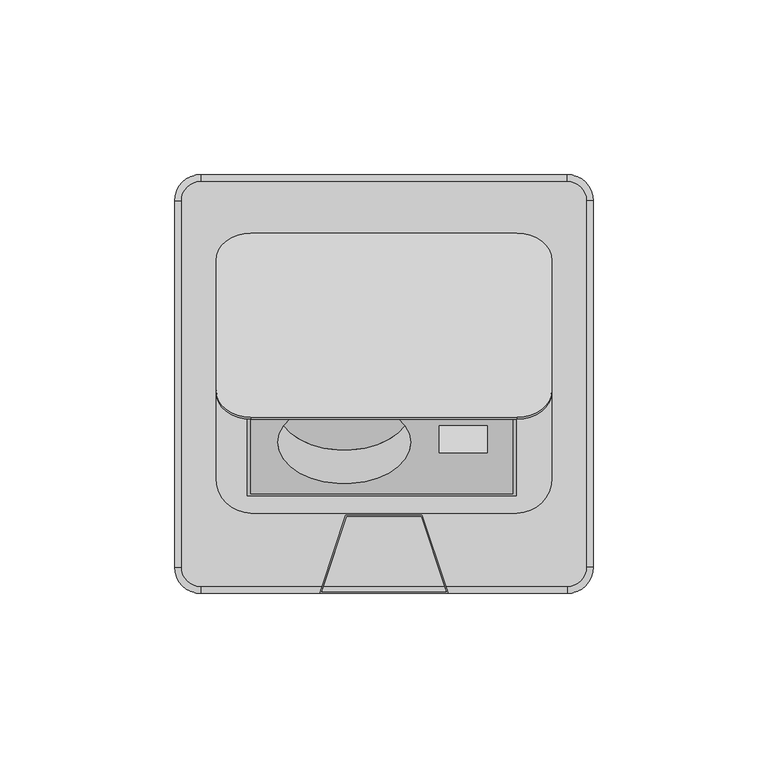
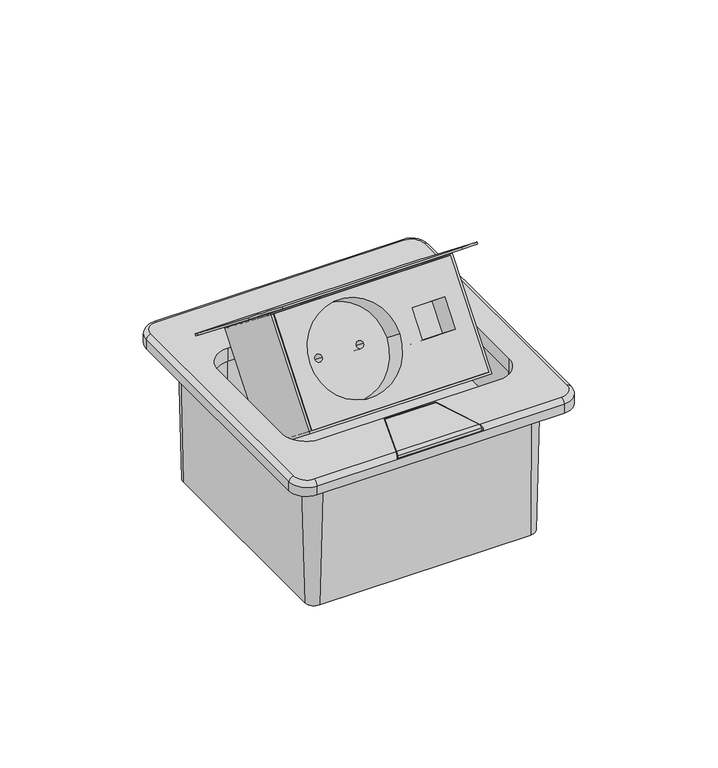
"""IFC4 building model written with IfcOpenShell, lengths in millimetres: proxy geometry, Electrical_Installation_Hager_VE-EE_Floor-socket-square : Floor socket square single a. RJ45 bronze."""

from ifc_helpers import new_model, si_unit, point, frame, frame_2d, origin, place, context, project, spatial, polyline, circle_curve, ellipse_curve, trimmed, segment, composite_curve, outline, extrude, source, transform, mapped, element, save
from ifc_brep_helpers import plane_surface, cylinder_surface, revolved_surface, spline_surface, advanced_brep


def electrical_fixtures_db793506(model_context):
    return source(origin(), model_context, "Body", "SolidModel", [
        advanced_brep(
        [(-52.5, 58.0283196, 5.9674888), (-57.9994443, 52.5288753, 5.9674888), (-57.9994443, -52.4711201, 5.9674888), (-52.5, -57.9705644, 5.9674888), (-17.8382514, -57.9705644, 5.9674888), (-11.0326968, -37.4705652, 5.9674888), (11.0, -37.4705652, 5.9674888), (17.8333333, -57.9705644, 5.9674888), (52.5, -57.9705644, 5.9674888), (57.9994443, -52.4711201, 5.9674888), (57.9994443, 52.5288753, 5.9674888), (52.5, 58.0283196, 5.9674888), (-48.1, 20.5125, 5.9674888), (-38.1, 30.5125, 5.9674888), (38.1, 30.5125, 5.9674888), (48.1, 20.5125, 5.9674888), (48.1, -26.95, 5.9674888), (38.1, -36.95, 5.9674888), (-38.1, -36.95, 5.9674888), (-48.1, -26.95, 5.9674888), (-17.311419, -57.9705644, 5.9674888), (17.3062871, -57.9705644, 5.9674888), (10.6396204, -37.9705652, 5.9674888), (-10.6718535, -37.9705652, 5.9674888), (-60.0, -52.4711201, 0.0), (-60.0, 52.5288753, 0.0), (-52.5, 60.0288753, 0.0), (52.5, 60.0288753, 0.0), (60.0, 52.5288753, 0.0), (60.0, -52.4711201, 0.0), (52.5, -59.9711201, 0.0), (-52.5, -59.9711201, 0.0), (-48.1, 20.5125, 0.0), (-48.1, -26.95, 0.0), (-38.1, -36.95, 0.0), (38.1, -36.95, 0.0), (48.1, -26.95, 0.0), (48.1, 20.5125, 0.0), (38.1, 30.5125, 0.0), (-38.1, 30.5125, 0.0), (-52.5, -59.9711201, 3.9669345), (-60.0, -52.4711201, 3.9669331), (52.5, -59.9711201, 3.9669331), (18.5001852, -59.9711201, 3.9669331), (-18.5023925, -59.9711201, 3.9842473), (60.0, -52.4711201, 3.9669345), (60.0, 52.5288753, 3.9669331), (52.5, 60.0288753, 3.9669345), (-52.5, 60.0288753, 3.9669345), (-60.0, 52.5288753, 3.9669345), (-17.8316076, -59.5375, 5.2106919), (17.8285989, -59.5375, 5.2106919), (11.0, -37.4705652, 3.9842473), (-11.0326968, -37.4705652, 3.9842473), (-17.8316076, -59.5375, 3.9842473), (-10.6718535, -37.9705652, 3.9842473), (10.6396204, -37.9705652, 3.9842473), (17.8285989, -59.5375, 3.9842473)],
        [
            (0, 1, circle_curve(frame((-52.5, 52.5288753, 5.9674888), z_axis=(0.0, 0.0, 1.0), x_axis=(0.0, 1.0, 0.0)), 5.4994443)),
            (1, 2),
            (2, 3, circle_curve(frame((-52.5, -52.4711201, 5.9674888), z_axis=(0.0, 0.0, 1.0), x_axis=(-1.0, 0.0, 0.0)), 5.4994443)),
            (3, 4),
            (4, 5),
            (5, 6),
            (6, 7),
            (7, 8),
            (8, 9, circle_curve(frame((52.5, -52.4711201, 5.9674888), z_axis=(0.0, 0.0, 1.0), x_axis=(0.0, -1.0, 0.0)), 5.4994443)),
            (9, 10),
            (10, 11, circle_curve(frame((52.5, 52.5288753, 5.9674888), z_axis=(0.0, 0.0, 1.0), x_axis=(1.0, 0.0, 0.0)), 5.4994443)),
            (11, 0),
            (12, 13, circle_curve(frame((-38.1, 20.5125, 5.9674888), z_axis=(0.0, 0.0, -1.0), x_axis=(1.0, 0.0, 0.0)), 10.0)),
            (13, 14),
            (14, 15, circle_curve(frame((38.1, 20.5125, 5.9674888), z_axis=(0.0, 0.0, -1.0), x_axis=(1.0, 0.0, 0.0)), 10.0)),
            (15, 16),
            (16, 17, circle_curve(frame((38.1, -26.95, 5.9674888), z_axis=(0.0, 0.0, -1.0), x_axis=(1.0, 0.0, 0.0)), 10.0)),
            (17, 18),
            (18, 19, circle_curve(frame((-38.1, -26.95, 5.9674888), z_axis=(0.0, 0.0, -1.0), x_axis=(1.0, 0.0, 0.0)), 10.0)),
            (19, 12),
            (20, 21),
            (21, 22),
            (22, 23),
            (23, 20),
            (24, 25),
            (25, 26, circle_curve(frame((-52.5, 52.5288753, 0.0), z_axis=(0.0, 0.0, -1.0), x_axis=(1.0, 0.0, 0.0)), 7.5)),
            (26, 27),
            (27, 28, circle_curve(frame((52.5, 52.5288753, 0.0), z_axis=(0.0, 0.0, -1.0), x_axis=(1.0, 0.0, 0.0)), 7.5)),
            (28, 29),
            (29, 30, circle_curve(frame((52.5, -52.4711201, 0.0), z_axis=(0.0, 0.0, -1.0), x_axis=(1.0, 0.0, 0.0)), 7.5)),
            (30, 31),
            (31, 24, circle_curve(frame((-52.5, -52.4711201, 0.0), z_axis=(0.0, 0.0, -1.0), x_axis=(1.0, 0.0, 0.0)), 7.5)),
            (32, 33),
            (33, 34, circle_curve(frame((-38.1, -26.95, 0.0), z_axis=(0.0, 0.0, 1.0), x_axis=(1.0, 0.0, 0.0)), 10.0)),
            (34, 35),
            (35, 36, circle_curve(frame((38.1, -26.95, 0.0), z_axis=(0.0, 0.0, 1.0), x_axis=(1.0, 0.0, 0.0)), 10.0)),
            (36, 37),
            (37, 38, circle_curve(frame((38.1, 20.5125, 0.0), z_axis=(0.0, 0.0, 1.0), x_axis=(1.0, 0.0, 0.0)), 10.0)),
            (38, 39),
            (39, 32, circle_curve(frame((-38.1, 20.5125, 0.0), z_axis=(0.0, 0.0, 1.0), x_axis=(1.0, 0.0, 0.0)), 10.0)),
            (12, 32),
            (39, 13),
            (38, 14),
            (37, 15),
            (36, 16),
            (35, 17),
            (34, 18),
            (33, 19),
            (31, 40),
            (40, 41, circle_curve(frame((-52.5, -52.4711201, 3.9669331), z_axis=(0.0, 0.0, -1.0), x_axis=(1.0, 0.0, 0.0)), 7.5)),
            (41, 24),
            (30, 42),
            (42, 43),
            (43, 44),
            (44, 40),
            (29, 45),
            (45, 42, circle_curve(frame((52.5, -52.4711201, 3.9669331), z_axis=(0.0, 0.0, -1.0), x_axis=(1.0, 0.0, 0.0)), 7.5)),
            (28, 46),
            (46, 45),
            (27, 47),
            (47, 46, circle_curve(frame((52.5, 52.5288753, 3.9669331), z_axis=(0.0, 0.0, -1.0), x_axis=(1.0, 0.0, 0.0)), 7.5)),
            (26, 48),
            (48, 47),
            (25, 49),
            (49, 48, circle_curve(frame((-52.5, 52.5288753, 3.9669331), z_axis=(0.0, 0.0, -1.0), x_axis=(1.0, 0.0, 0.0)), 7.5)),
            (41, 49),
            (49, 1, circle_curve(frame((-57.9994443, 52.5288753, 3.9669331), z_axis=(0.0, 1.0, 0.0), x_axis=(1.0, 0.0, 0.0)), 2.0005557)),
            (0, 48, circle_curve(frame((-52.5, 58.0283196, 3.9669331), z_axis=(-1.0, 0.0, 0.0), x_axis=(0.0, -1.0, 0.0)), 2.0005557)),
            (41, 2, circle_curve(frame((-57.9994443, -52.4711201, 3.9669331), z_axis=(0.0, 1.0, 0.0), x_axis=(1.0, 0.0, 0.0)), 2.0005557)),
            (40, 3, circle_curve(frame((-52.5, -57.9705644, 3.9669331), z_axis=(-1.0, 0.0, 0.0), x_axis=(0.0, 1.0, 0.0)), 2.0005557)),
            (20, 50, ellipse_curve(frame((-17.311419, -57.9705644, 3.9669331), z_axis=(0.9490684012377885, -0.31507010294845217, 0.0), x_axis=(0.315070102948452, 0.9490684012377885, 0.0)), 2.1079152, 2.0005557)),
            (50, 51),
            (51, 21, ellipse_curve(frame((17.3062871, -57.9705644, 3.9669331), z_axis=(-0.9486832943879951, -0.31622777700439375, 0.0), x_axis=(0.3162277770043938, -0.9486832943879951, 0.0)), 2.1087708, 2.0005557)),
            (44, 4, ellipse_curve(frame((-17.8382514, -57.9705644, 3.9669331), z_axis=(-0.9490684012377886, 0.31507010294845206, 0.0), x_axis=(0.31507010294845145, 0.9490684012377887, 0.0)), 2.1079152, 2.0005557)),
            (42, 8, circle_curve(frame((52.5, -57.9705644, 3.9669331), z_axis=(-1.0, 0.0, 0.0), x_axis=(0.0, 1.0, 0.0)), 2.0005557)),
            (7, 43, ellipse_curve(frame((17.8333333, -57.9705644, 3.9669331), z_axis=(0.9486832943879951, 0.31622777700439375, 0.0), x_axis=(0.3162277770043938, -0.9486832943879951, 0.0)), 2.1087708, 2.0005557)),
            (45, 9, circle_curve(frame((57.9994443, -52.4711201, 3.9669331), z_axis=(0.0, -1.0, 0.0), x_axis=(-1.0, 0.0, 0.0)), 2.0005557)),
            (46, 10, circle_curve(frame((57.9994443, 52.5288753, 3.9669331), z_axis=(0.0, -1.0, 0.0), x_axis=(-1.0, 0.0, 0.0)), 2.0005557)),
            (47, 11, circle_curve(frame((52.5, 58.0283196, 3.9669331), z_axis=(1.0, 0.0, 0.0), x_axis=(0.0, -1.0, 0.0)), 2.0005557)),
            (43, 52),
            (52, 53),
            (53, 44),
            (54, 55),
            (55, 56),
            (56, 57),
            (57, 54),
            (6, 52),
            (5, 53),
            (54, 50),
            (23, 55),
            (22, 56),
            (51, 57),
        ],
        [
            plane_surface(frame((-28.1, 20.5125, 5.9674888), z_axis=(0.0, 0.0, 1.0), x_axis=(0.0, -1.0, 0.0))),
            plane_surface(frame((-28.1, 20.5125, 0.0), z_axis=(0.0, 0.0, -1.0), x_axis=(0.0, 1.0, 0.0))),
            revolved_surface(polyline([(-28.1, 20.5125, 0.0), (-28.1, 20.5125, 5.9674888)]), (-38.1, 20.5125, 0.0), (0.0, 0.0, -1.0)),
            plane_surface(frame((-38.1, 30.5125, 5.9674888), z_axis=(0.0, -1.0, 0.0), x_axis=(0.0, 0.0, -1.0))),
            revolved_surface(polyline([(48.1, 20.5125, 0.0), (48.1, 20.5125, 5.9674888)]), (38.1, 20.5125, 0.0), (0.0, 0.0, -1.0)),
            plane_surface(frame((48.1, 20.5125, 5.9674888), z_axis=(-1.0, 0.0, 0.0), x_axis=(0.0, 0.0, -1.0))),
            revolved_surface(polyline([(48.1, -26.95, 0.0), (48.1, -26.95, 5.9674888)]), (38.1, -26.95, 0.0), (0.0, 0.0, -1.0)),
            plane_surface(frame((38.1, -36.95, 5.9674888), z_axis=(0.0, 1.0, 0.0), x_axis=(0.0, 0.0, -1.0))),
            revolved_surface(polyline([(-28.1, -26.95, 0.0), (-28.1, -26.95, 5.9674888)]), (-38.1, -26.95, 0.0), (0.0, 0.0, -1.0)),
            plane_surface(frame((-48.1, -26.95, 5.9674888), z_axis=(1.0, 0.0, 0.0), x_axis=(0.0, 0.0, -1.0))),
            cylinder_surface(frame((-52.5, -52.4711201, 0.0), z_axis=(0.0, 0.0, 1.0), x_axis=(1.0, 0.0, 0.0)), 7.5),
            plane_surface(frame((-52.5, -59.9711201, 5.9674888), z_axis=(0.0, -1.0, 0.0), x_axis=(0.0, 0.0, -1.0))),
            cylinder_surface(frame((52.5, -52.4711201, 0.0), z_axis=(0.0, 0.0, 1.0), x_axis=(1.0, 0.0, 0.0)), 7.5),
            plane_surface(frame((60.0, -52.4711201, 5.9674888), z_axis=(1.0, 0.0, 0.0), x_axis=(0.0, 0.0, -1.0))),
            cylinder_surface(frame((52.5, 52.5288753, 0.0), z_axis=(0.0, 0.0, 1.0), x_axis=(1.0, 0.0, 0.0)), 7.5),
            plane_surface(frame((52.5, 60.0288753, 5.9674888), z_axis=(0.0, 1.0, 0.0), x_axis=(0.0, 0.0, -1.0))),
            cylinder_surface(frame((-52.5, 52.5288753, 0.0), z_axis=(0.0, 0.0, 1.0), x_axis=(1.0, 0.0, 0.0)), 7.5),
            plane_surface(frame((-60.0, 52.5288753, 5.9674888), z_axis=(-1.0, 0.0, 0.0), x_axis=(0.0, 0.0, -1.0))),
            revolved_surface(trimmed(ellipse_curve(frame((-52.5, 58.0283196, 3.9669331), z_axis=(1.0, 0.0, 0.0), x_axis=(0.0, -1.0, 0.0)), 2.0005557, 2.0005557), [point((-52.5, 60.0288753, 3.9669331))], [point((-52.5, 58.0283196, 5.9674888))], True, "CARTESIAN"), (-52.5, 52.5288753, 0.0), (0.0, 0.0, 1.0)),
            cylinder_surface(frame((-57.9994443, 52.5288753, 3.9669331), z_axis=(0.0, -1.0, 0.0), x_axis=(1.0, 0.0, 0.0)), 2.0005557),
            revolved_surface(trimmed(ellipse_curve(frame((-57.9994443, -52.4711201, 3.9669331), z_axis=(0.0, 1.0, 0.0), x_axis=(1.0, 0.0, 0.0)), 2.0005557, 2.0005557), [point((-60.0, -52.4711201, 3.9669331))], [point((-57.9994443, -52.4711201, 5.9674888))], True, "CARTESIAN"), (-52.5, -52.4711201, 0.0), (0.0, 0.0, 1.0)),
            cylinder_surface(frame((-52.5, -57.9705644, 3.9669331), z_axis=(1.0, 0.0, 0.0), x_axis=(0.0, 1.0, 0.0)), 2.0005557),
            revolved_surface(trimmed(ellipse_curve(frame((52.5, -57.9705644, 3.9669331), z_axis=(-1.0, 0.0, 0.0), x_axis=(0.0, 1.0, 0.0)), 2.0005557, 2.0005557), [point((52.5, -59.9711201, 3.9669331))], [point((52.5, -57.9705644, 5.9674888))], True, "CARTESIAN"), (52.5, -52.4711201, 0.0), (0.0, 0.0, 1.0)),
            cylinder_surface(frame((57.9994443, -52.4711201, 3.9669331), z_axis=(0.0, 1.0, 0.0), x_axis=(-1.0, 0.0, 0.0)), 2.0005557),
            revolved_surface(trimmed(ellipse_curve(frame((57.9994443, 52.5288753, 3.9669331), z_axis=(0.0, -1.0, 0.0), x_axis=(-1.0, 0.0, 0.0)), 2.0005557, 2.0005557), [point((60.0, 52.5288753, 3.9669331))], [point((57.9994443, 52.5288753, 5.9674888))], True, "CARTESIAN"), (52.5, 52.5288753, 0.0), (0.0, 0.0, 1.0)),
            cylinder_surface(frame((52.5, 58.0283196, 3.9669331), z_axis=(-1.0, 0.0, 0.0), x_axis=(0.0, -1.0, 0.0)), 2.0005557),
            plane_surface(frame((10.35, -59.9711201, 3.9842473), z_axis=(0.0, 0.0, 1.0), x_axis=(-1.0, 0.0, 0.0))),
            plane_surface(frame((18.5001852, -59.9711201, 8.0), z_axis=(-0.9486832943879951, -0.31622777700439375, 0.0), x_axis=(0.0, 0.0, -1.0))),
            plane_surface(frame((11.0, -37.4705652, 8.0), z_axis=(0.0, -1.0, 0.0), x_axis=(0.0, 0.0, -1.0))),
            plane_surface(frame((-11.0326968, -37.4705652, 8.0), z_axis=(0.9490684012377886, -0.31507010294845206, 0.0), x_axis=(0.0, 0.0, -1.0))),
            plane_surface(frame((-17.8316076, -59.5375, 8.0), z_axis=(-0.9490684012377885, 0.31507010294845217, 0.0), x_axis=(0.0, 0.0, -1.0))),
            plane_surface(frame((-10.6718535, -37.9705652, 8.0), z_axis=(0.0, 1.0, 0.0), x_axis=(0.0, 0.0, -1.0))),
            plane_surface(frame((10.6396204, -37.9705652, 8.0), z_axis=(0.9486832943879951, 0.31622777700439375, 0.0), x_axis=(0.0, 0.0, -1.0))),
            plane_surface(frame((17.8285989, -59.5375, 8.0), z_axis=(0.0, -1.0, 0.0), x_axis=(0.0, 0.0, -1.0))),
        ],
        [
            (0, [[1, 2, 3, 4, 5, 6, 7, 8, 9, 10, 11, 12], [13, 14, 15, 16, 17, 18, 19, 20]]),
            (0, [[21, 22, 23, 24]]),
            (1, [[25, 26, 27, 28, 29, 30, 31, 32], [33, 34, 35, 36, 37, 38, 39, 40]]),
            (2, [[-13, 41, -40, 42]]),
            (3, [[-14, -42, -39, 43]]),
            (4, [[-15, -43, -38, 44]]),
            (5, [[-16, -44, -37, 45]]),
            (6, [[-17, -45, -36, 46]]),
            (7, [[-18, -46, -35, 47]]),
            (8, [[-19, -47, -34, 48]]),
            (9, [[-20, -48, -33, -41]]),
            (10, [[-32, 49, 50, 51]]),
            (11, [[-31, 52, 53, 54, 55, -49]]),
            (12, [[-30, 56, 57, -52]]),
            (13, [[-29, 58, 59, -56]]),
            (14, [[-28, 60, 61, -58]]),
            (15, [[-27, 62, 63, -60]]),
            (16, [[-26, 64, 65, -62]]),
            (17, [[-25, -51, 66, -64]]),
            (18, [[67, -1, 68, -65]]),
            (19, [[-67, -66, 69, -2]]),
            (20, [[-69, -50, 70, -3]]),
            (21, [[-21, 71, 72, 73]]),
            (21, [[-70, -55, 74, -4]]),
            (21, [[75, -8, 76, -53]]),
            (22, [[-75, -57, 77, -9]]),
            (23, [[-77, -59, 78, -10]]),
            (24, [[-78, -61, 79, -11]]),
            (25, [[-68, -12, -79, -63]]),
            (26, [[80, 81, 82, -54], [83, 84, 85, 86]]),
            (27, [[-80, -76, -7, 87]]),
            (28, [[-81, -87, -6, 88]]),
            (29, [[-82, -88, -5, -74]]),
            (30, [[-83, 89, -71, -24, 90]]),
            (31, [[-84, -90, -23, 91]]),
            (32, [[-85, -91, -22, -73, 92]]),
            (33, [[-86, -92, -72, -89]]),
        ],
    ),
        advanced_brep(
        [(36.9, -3.2305437, 41.9658911), (36.9, 30.7684246, 14.9606229), (-38.1, 30.7684246, 14.9606229), (-38.1, -3.2305437, 41.9658911), (36.9, -31.3883088, 6.5159575), (-38.1, -31.3883088, 6.5159575), (-38.1, 2.6106594, -20.4893107), (36.9, 2.6106594, -20.4893107), (-30.3664952, -16.7053992, 25.0013795), (7.6335048, -16.7053992, 25.0013795), (15.77713, -11.9412037, 30.9993845), (29.52713, -11.9412037, 30.9993845), (29.52713, -19.7384425, 21.1828526), (15.77713, -19.7384425, 21.1828526), (7.6335048, -7.0877896, 17.3621439), (-30.3664952, -7.0877896, 17.3621439), (-22.4382418, -6.6109294, 17.9624992), (-19.4382418, -6.6109294, 17.9624992), (-4.9382418, -6.6109294, 17.9624992), (-1.9382418, -6.6109294, 17.9624992), (29.52713, -2.323594, 23.3601489), (15.77713, -2.323594, 23.3601489), (15.77713, -10.1208329, 13.543617), (29.52713, -10.1208329, 13.543617), (-19.4382418, 9.1049917, 5.479395), (-22.4382418, 9.1049917, 5.479395), (-1.9382418, 9.1049917, 5.479395), (-4.9382418, 9.1049917, 5.479395)],
        [
            (0, 1),
            (1, 2),
            (2, 3),
            (3, 0),
            (4, 5),
            (5, 6),
            (6, 7),
            (7, 4),
            (0, 4),
            (7, 1),
            (6, 2),
            (5, 3),
            (8, 9, circle_curve(frame((-11.3664952, -16.7053992, 25.0013795), z_axis=(0.0, 0.7830425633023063, -0.6219681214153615), x_axis=(-1.0, 0.0, 0.0)), 19.0)),
            (9, 8, circle_curve(frame((-11.3664952, -16.7053992, 25.0013795), z_axis=(0.0, 0.7830425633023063, -0.6219681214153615), x_axis=(-1.0, 0.0, 0.0)), 19.0)),
            (10, 11),
            (11, 12),
            (12, 13),
            (13, 10),
            (14, 15, circle_curve(frame((-11.3664952, -7.0877896, 17.3621439), z_axis=(0.0, -0.7830425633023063, 0.6219681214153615), x_axis=(-1.0, 0.0, 0.0)), 19.0)),
            (15, 14, circle_curve(frame((-11.3664952, -7.0877896, 17.3621439), z_axis=(0.0, -0.7830425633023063, 0.6219681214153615), x_axis=(-1.0, 0.0, 0.0)), 19.0)),
            (16, 17, circle_curve(frame((-20.9382418, -6.6109294, 17.9624992), z_axis=(0.0, 0.7830425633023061, -0.6219681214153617), x_axis=(-1.0, 0.0, 0.0)), 1.5)),
            (17, 16, circle_curve(frame((-20.9382418, -6.6109294, 17.9624992), z_axis=(0.0, 0.7830425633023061, -0.6219681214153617), x_axis=(-1.0, 0.0, 0.0)), 1.5)),
            (18, 19, circle_curve(frame((-3.4382418, -6.6109294, 17.9624992), z_axis=(0.0, 0.7830425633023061, -0.6219681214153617), x_axis=(-1.0, 0.0, 0.0)), 1.5)),
            (19, 18, circle_curve(frame((-3.4382418, -6.6109294, 17.9624992), z_axis=(0.0, 0.7830425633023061, -0.6219681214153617), x_axis=(-1.0, 0.0, 0.0)), 1.5)),
            (20, 21),
            (21, 22),
            (22, 23),
            (23, 20),
            (14, 9),
            (8, 15),
            (20, 11),
            (10, 21),
            (13, 22),
            (12, 23),
            (24, 25, circle_curve(frame((-20.9382418, 9.1049917, 5.479395), z_axis=(0.0, -0.7830425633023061, 0.6219681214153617), x_axis=(-1.0, 0.0, 0.0)), 1.5)),
            (25, 24, circle_curve(frame((-20.9382418, 9.1049917, 5.479395), z_axis=(0.0, -0.7830425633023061, 0.6219681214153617), x_axis=(-1.0, 0.0, 0.0)), 1.5)),
            (26, 27, circle_curve(frame((-3.4382418, 9.1049917, 5.479395), z_axis=(0.0, -0.7830425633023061, 0.6219681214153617), x_axis=(-1.0, 0.0, 0.0)), 1.5)),
            (27, 26, circle_curve(frame((-3.4382418, 9.1049917, 5.479395), z_axis=(0.0, -0.7830425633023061, 0.6219681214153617), x_axis=(-1.0, 0.0, 0.0)), 1.5)),
            (24, 17),
            (16, 25),
            (26, 19),
            (18, 27),
        ],
        [
            plane_surface(frame((36.9, 30.7684246, 14.9606229), z_axis=(0.0, 0.6219681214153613, 0.7830425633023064), x_axis=(0.0, 0.7830425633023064, -0.6219681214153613))),
            plane_surface(frame((36.9, 2.6106594, -20.4893107), z_axis=(0.0, -0.6219681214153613, -0.7830425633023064), x_axis=(0.0, -0.7830425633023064, 0.6219681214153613))),
            plane_surface(frame((36.9, -3.2305437, 41.9658911), z_axis=(1.0000000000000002, 0.0, 0.0), x_axis=(0.0, -0.6219681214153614, -0.7830425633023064))),
            plane_surface(frame((36.9, 30.7684246, 14.9606229), z_axis=(0.0, 0.7830425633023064, -0.6219681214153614), x_axis=(0.0, -0.6219681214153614, -0.7830425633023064))),
            plane_surface(frame((-38.1, 30.7684246, 14.9606229), z_axis=(-1.0, 0.0, 0.0), x_axis=(0.0, -0.6219681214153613, -0.7830425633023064))),
            plane_surface(frame((-38.1, -3.2305437, 41.9658911), z_axis=(0.0, -0.7830425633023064, 0.6219681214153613), x_axis=(0.0, -0.6219681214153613, -0.7830425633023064))),
            plane_surface(frame((-30.3664952, -7.0877896, 17.3621439), z_axis=(0.0, -0.7830425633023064, 0.6219681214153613), x_axis=(0.0, 0.6219681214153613, 0.7830425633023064))),
            revolved_surface(polyline([(-30.3664952, -16.70539923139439, 25.001379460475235), (-30.3664952, -7.0877896, 17.3621439)]), (-11.3664952, -7.0877896, 17.3621439), (0.0, -0.7830425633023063, 0.6219681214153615)),
            plane_surface(frame((29.52713, -11.9412037, 30.9993845), z_axis=(0.0, -0.6219681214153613, -0.7830425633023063), x_axis=(0.0, 0.7830425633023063, -0.6219681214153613))),
            plane_surface(frame((15.77713, -11.9412037, 30.9993845), z_axis=(1.0, 0.0, 0.0), x_axis=(0.0, 0.7830425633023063, -0.6219681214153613))),
            plane_surface(frame((15.77713, -19.7384425, 21.1828526), z_axis=(0.0, 0.6219681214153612, 0.7830425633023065), x_axis=(0.0, 0.7830425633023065, -0.6219681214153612))),
            plane_surface(frame((29.52713, -19.7384425, 21.1828526), z_axis=(-1.0, 0.0, 0.0), x_axis=(0.0, 0.7830425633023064, -0.6219681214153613))),
            plane_surface(frame((-22.4382418, 9.1049917, 5.479395), z_axis=(0.0, -0.7830425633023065, 0.6219681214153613), x_axis=(0.0, 0.6219681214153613, 0.7830425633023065))),
            revolved_surface(polyline([(-22.4382418, -6.610929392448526, 17.96249920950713), (-22.4382418, 9.1049917, 5.479395)]), (-20.9382418, 9.1049917, 5.479395), (0.0, -0.7830425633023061, 0.6219681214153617)),
            revolved_surface(polyline([(-4.9382418, -6.610929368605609, 17.96249923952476), (-4.9382418, 9.104991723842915, 5.479395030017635)]), (-3.4382418, -16.228539, 25.6017348), (0.0, -0.7830425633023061, 0.6219681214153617)),
        ],
        [
            (0, [[1, 2, 3, 4]]),
            (1, [[5, 6, 7, 8]]),
            (2, [[-1, 9, -8, 10]]),
            (3, [[-2, -10, -7, 11]]),
            (4, [[-3, -11, -6, 12]]),
            (5, [[-4, -12, -5, -9], [13, 14], [15, 16, 17, 18]]),
            (6, [[19, 20], [21, 22], [23, 24]]),
            (6, [[25, 26, 27, 28]]),
            (7, [[-19, 29, -13, 30]]),
            (7, [[-20, -30, -14, -29]]),
            (8, [[-25, 31, -15, 32]]),
            (9, [[-26, -32, -18, 33]]),
            (10, [[-27, -33, -17, 34]]),
            (11, [[-28, -34, -16, -31]]),
            (12, [[35, 36]]),
            (12, [[37, 38]]),
            (13, [[-35, 39, -21, 40]]),
            (13, [[-36, -40, -22, -39]]),
            (14, [[-37, 41, -23, 42]]),
            (14, [[-38, -42, -24, -41]]),
        ],
    ),
        extrude(outline(polyline([(46.2720392, -1.0), (-0.3640967, -1.0), (-0.3640967, 76.0), (46.2720392, 76.0), (46.2720392, -1.0)]), holes=[polyline([(45.2720392, 0.0), (45.2720392, 75.0), (0.0, 75.0), (0.0, 0.0), (45.2720392, 0.0)])]), frame((-38.1, 30.7684246, 14.9606229), z_axis=(0.0, -0.7830425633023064, 0.6219681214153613), x_axis=(0.0, -0.6219681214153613, -0.7830425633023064)), (0.0, 0.0, 1.0), 43.4190552),
        extrude(outline(composite_curve([segment(polyline([(0.0, -20.0), (-76.2, -20.0)]), True, "CONTINUOUS"), segment(trimmed(circle_curve(frame_2d((-76.2, -10.0)), 10.0), [point((-76.2, -20.0))], [point((-86.2, -10.0))], False, "CARTESIAN"), True, "CONTINUOUS"), segment(polyline([(-86.2, -10.0), (-86.2, 37.4624999)]), True, "CONTINUOUS"), segment(trimmed(circle_curve(frame_2d((-76.2, 37.4624999)), 10.0), [point((-86.2, 37.4624999))], [point((-76.2, 47.4625))], False, "CARTESIAN"), True, "CONTINUOUS"), segment(polyline([(-76.2, 47.4625), (0.0, 47.4625)]), True, "CONTINUOUS"), segment(trimmed(circle_curve(frame_2d((0.0, 37.4624999)), 10.0), [point((0.0, 47.4625))], [point((10.0, 37.4624999))], False, "CARTESIAN"), True, "CONTINUOUS"), segment(polyline([(10.0, 37.4624999), (10.0, -10.0)]), True, "CONTINUOUS"), segment(trimmed(circle_curve(frame_2d((0.0, -10.0)), 10.0), [point((10.0, -10.0))], [point((0.0, -20.0))], False, "CARTESIAN"), True, "CONTINUOUS")], self_intersect=False)), frame((-38.1, 27.1120695, 18.8433586), z_axis=(0.0, 0.6219681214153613, 0.7830425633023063), x_axis=(-1.0, 0.0, 0.0)), (0.0, 0.0, 1.0), 0.7674888),
        advanced_brep(
        [(44.25, 50.25, 0.0), (-44.2266887, 50.25, 0.0), (-50.2266887, 44.25, 0.0), (-50.2266887, -44.25, 0.0), (-44.2266887, -50.25, 0.0), (44.25, -50.25, 0.0), (50.25, -44.25, 0.0), (50.25, 44.25, 0.0), (-38.1, -36.95, 0.0), (-48.1, -26.95, 0.0), (-48.1, 20.5125, 0.0), (-38.1, 30.5125, 0.0), (38.1, 30.5125, 0.0), (48.1, 20.5125, 0.0), (48.1, -26.95, 0.0), (38.1, -36.95, 0.0), (44.7494858, 48.7494858, -58.9123857), (48.7494858, 44.7494858, -58.9123857), (48.7494858, -44.7494858, -58.9123857), (44.7494858, -48.7494858, -58.9123857), (-44.7494858, -48.7494858, -58.9123857), (-48.7494858, -44.7494858, -58.9123857), (-48.7494858, 44.7494858, -58.9123857), (-44.7494858, 48.7494858, -58.9123857), (-48.1, -26.95, -20.2336443), (-38.1, -36.95, -20.2336443), (38.1, -36.95, -20.2336443), (48.1, -26.95, -20.2336443), (48.1, 20.5125, -20.2336443), (38.1, 30.5125, -20.2336443), (-38.1, 30.5125, -20.2336443), (-48.1, 20.5125, -20.2336443)],
        [
            (0, 1),
            (1, 2, circle_curve(frame((-44.2266887, 44.25, 0.0), z_axis=(0.0, 0.0, 1.0), x_axis=(1.0, 0.0, 0.0)), 6.0)),
            (2, 3),
            (3, 4, circle_curve(frame((-44.2266887, -44.25, 0.0), z_axis=(0.0, 0.0, 1.0), x_axis=(1.0, 0.0, 0.0)), 6.0)),
            (4, 5),
            (5, 6, circle_curve(frame((44.25, -44.25, 0.0), z_axis=(0.0, 0.0, 1.0), x_axis=(1.0, 0.0, 0.0)), 6.0)),
            (6, 7),
            (7, 0, circle_curve(frame((44.25, 44.25, 0.0), z_axis=(0.0, 0.0, 1.0), x_axis=(1.0, 0.0, 0.0)), 6.0)),
            (8, 9, circle_curve(frame((-38.1, -26.95, 0.0), z_axis=(0.0, 0.0, -1.0), x_axis=(1.0, 0.0, 0.0)), 10.0)),
            (9, 10),
            (10, 11, circle_curve(frame((-38.1, 20.5125, 0.0), z_axis=(0.0, 0.0, -1.0), x_axis=(1.0, 0.0, 0.0)), 10.0)),
            (11, 12),
            (12, 13, circle_curve(frame((38.1, 20.5125, 0.0), z_axis=(0.0, 0.0, -1.0), x_axis=(-1.0, 0.0, 0.0)), 10.0)),
            (13, 14),
            (14, 15, circle_curve(frame((38.1, -26.95, 0.0), z_axis=(0.0, 0.0, -1.0), x_axis=(1.0, 0.0, 0.0)), 10.0)),
            (15, 8),
            (16, 17, circle_curve(frame((44.7494858, 44.7494858, -58.9123857), z_axis=(0.0, 0.0, -1.0), x_axis=(1.0, 0.0, 0.0)), 4.0)),
            (17, 18),
            (18, 19, circle_curve(frame((44.7494858, -44.7494858, -58.9123857), z_axis=(0.0, 0.0, -1.0), x_axis=(1.0, 0.0, 0.0)), 4.0)),
            (19, 20),
            (20, 21, circle_curve(frame((-44.7494858, -44.7494858, -58.9123857), z_axis=(0.0, 0.0, -1.0), x_axis=(1.0, 0.0, 0.0)), 4.0)),
            (21, 22),
            (22, 23, circle_curve(frame((-44.7494858, 44.7494858, -58.9123857), z_axis=(0.0, 0.0, -1.0), x_axis=(1.0, 0.0, 0.0)), 4.0)),
            (23, 16),
            (0, 16),
            (23, 1),
            (22, 2),
            (21, 3),
            (20, 4),
            (19, 5),
            (18, 6),
            (17, 7),
            (24, 25, circle_curve(frame((-38.1, -26.95, -20.2336443), z_axis=(0.0, 0.0, 1.0), x_axis=(1.0, 0.0, 0.0)), 10.0)),
            (25, 26),
            (26, 27, circle_curve(frame((38.1, -26.95, -20.2336443), z_axis=(0.0, 0.0, 1.0), x_axis=(1.0, 0.0, 0.0)), 10.0)),
            (27, 28),
            (28, 29, circle_curve(frame((38.1, 20.5125, -20.2336443), z_axis=(0.0, 0.0, 1.0), x_axis=(-1.0, 0.0, 0.0)), 10.0)),
            (29, 30),
            (30, 31, circle_curve(frame((-38.1, 20.5125, -20.2336443), z_axis=(0.0, 0.0, 1.0), x_axis=(1.0, 0.0, 0.0)), 10.0)),
            (31, 24),
            (24, 9),
            (8, 25),
            (15, 26),
            (14, 27),
            (13, 28),
            (12, 29),
            (11, 30),
            (10, 31),
        ],
        [
            plane_surface(frame((0.0116556, 0.0, 0.0), z_axis=(0.0, 0.0, 1.0), x_axis=(-1.0, 0.0, 0.0))),
            plane_surface(frame((0.0, 0.0, -58.9123857), z_axis=(0.0, 0.0, -1.0), x_axis=(-1.0, 0.0, 0.0))),
            plane_surface(frame((0.0, 48.7494858, -58.9123857), z_axis=(0.0, 0.9996757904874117, -0.025462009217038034), x_axis=(-1.0, 0.0, 0.0))),
            spline_surface(2, 1, [[(-44.7494858, 48.7494858, -58.9123857), (-44.2266887, 50.25, 0.0)], [(-48.7494858, 48.7494858, -58.9123857), (-50.2266887, 50.25, 0.0)], [(-48.7494858, 44.7494858, -58.9123857), (-50.2266887, 44.25, 0.0)]], [3, 3], [2, 2], [0.0, 1.0], [0.0, 1.0], weights=[[1.0, 1.0], [0.7071067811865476, 0.7071067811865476], [1.0, 1.0]]),
            plane_surface(frame((-48.7494858, 0.0, -58.9123857), z_axis=(-0.9996857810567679, 0.0, -0.02506669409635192), x_axis=(0.0, -1.0, 0.0))),
            spline_surface(2, 1, [[(-48.7494858, -44.7494858, -58.9123857), (-50.2266887, -44.25, 0.0)], [(-48.7494858, -48.7494858, -58.9123857), (-50.2266887, -50.25, 0.0)], [(-44.7494858, -48.7494858, -58.9123857), (-44.2266887, -50.25, 0.0)]], [3, 3], [2, 2], [0.0, 1.0], [0.0, 1.0], weights=[[1.0, 1.0], [0.7071067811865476, 0.7071067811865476], [1.0, 1.0]]),
            plane_surface(frame((0.0, -48.7494858, -58.9123857), z_axis=(0.0, -0.9996757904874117, -0.025462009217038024), x_axis=(1.0, 0.0, 0.0))),
            spline_surface(2, 1, [[(44.7494858, -48.7494858, -58.9123857), (44.25, -50.25, 0.0)], [(48.7494858, -48.7494858, -58.9123857), (50.25, -50.25, 0.0)], [(48.7494858, -44.7494858, -58.9123857), (50.25, -44.25, 0.0)]], [3, 3], [2, 2], [0.0, 1.0], [0.0, 1.0], weights=[[1.0, 1.0], [0.7071067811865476, 0.7071067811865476], [1.0, 1.0]]),
            plane_surface(frame((48.7494858, 0.0, -58.9123857), z_axis=(0.9996757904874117, 0.0, -0.025462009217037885), x_axis=(0.0, 1.0, 0.0))),
            spline_surface(2, 1, [[(48.7494858, 44.7494858, -58.9123857), (50.25, 44.25, 0.0)], [(48.7494858, 48.7494858, -58.9123857), (50.25, 50.25, 0.0)], [(44.7494858, 48.7494858, -58.9123857), (44.25, 50.25, 0.0)]], [3, 3], [2, 2], [0.0, 1.0], [0.0, 1.0], weights=[[1.0, 1.0], [0.7071067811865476, 0.7071067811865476], [1.0, 1.0]]),
            plane_surface(frame((-28.1, -26.95, -20.2336443), z_axis=(0.0, 0.0, 1.0), x_axis=(0.0, -1.0, 0.0))),
            revolved_surface(polyline([(-28.1, -26.95, 0.0), (-28.1, -26.95, -20.2336443)]), (-38.1, -26.95, -20.2336443), (0.0, 0.0, 1.0)),
            plane_surface(frame((-38.1, -36.95, 8.0), z_axis=(0.0, 1.0, 0.0), x_axis=(0.0, 0.0, -1.0))),
            revolved_surface(polyline([(48.1, -26.95, 0.0), (48.1, -26.95, -20.2336443)]), (38.1, -26.95, -20.2336443), (0.0, 0.0, 1.0)),
            plane_surface(frame((48.1, -26.95, 8.0), z_axis=(-1.0, 0.0, 0.0), x_axis=(0.0, 0.0, -1.0))),
            revolved_surface(polyline([(28.1, 20.5125, 0.0), (28.1, 20.5125, -20.2336443)]), (38.1, 20.5125, -20.2336443), (0.0, 0.0, 1.0)),
            plane_surface(frame((38.1, 30.5125, 8.0), z_axis=(0.0, -1.0, 0.0), x_axis=(0.0, 0.0, -1.0))),
            revolved_surface(polyline([(-28.1, 20.5125, 0.0), (-28.1, 20.5125, -20.2336443)]), (-38.1, 20.5125, -20.2336443), (0.0, 0.0, 1.0)),
            plane_surface(frame((-48.1, 20.5125, 8.0), z_axis=(1.0, 0.0, 0.0), x_axis=(0.0, 0.0, -1.0))),
        ],
        [
            (0, [[1, 2, 3, 4, 5, 6, 7, 8], [9, 10, 11, 12, 13, 14, 15, 16]]),
            (1, [[17, 18, 19, 20, 21, 22, 23, 24]]),
            (2, [[-1, 25, -24, 26]]),
            (3, [[-2, -26, -23, 27]]),
            (4, [[-3, -27, -22, 28]]),
            (5, [[-4, -28, -21, 29]]),
            (6, [[-5, -29, -20, 30]]),
            (7, [[-6, -30, -19, 31]]),
            (8, [[-7, -31, -18, 32]]),
            (9, [[-8, -32, -17, -25]]),
            (10, [[33, 34, 35, 36, 37, 38, 39, 40]]),
            (11, [[-33, 41, -9, 42]]),
            (12, [[-34, -42, -16, 43]]),
            (13, [[-35, -43, -15, 44]]),
            (14, [[-36, -44, -14, 45]]),
            (15, [[-37, -45, -13, 46]]),
            (16, [[-38, -46, -12, 47]]),
            (17, [[-39, -47, -11, 48]]),
            (18, [[-40, -48, -10, -41]]),
        ],
    ),
    ])


if __name__ == "__main__":
    model = new_model("IFC4")
    model_context = context("Model", 3, world=origin())
    ifc_project = project(units=[si_unit("LENGTHUNIT", "METRE", prefix="MILLI")], contexts=[model_context])
    site = spatial("IfcSite", under=ifc_project)
    building = spatial("IfcBuilding", under=site)
    placement = place(None, origin())
    electrical_fixtures_shape = electrical_fixtures_db793506(model_context)
    element("IfcBuildingElementProxy", 1, Name="Electrical_Installation_Hager_VE-EE_Floor-socket-square : Floor socket square single a. RJ45 bronze", ObjectType="Electrical_Installation_Hager_VE-EE_Floor-socket-square : Floor socket square single a. RJ45 bronze", at=placement, inside=building, context=model_context, shape_type="MappedRepresentation", body=[
        mapped(electrical_fixtures_shape, transform((0.0, 0.0, 0.0), x_axis=(1.0, 0.0, 0.0), y_axis=(0.0, 1.0, 0.0), z_axis=(0.0, 0.0, 1.0))),
    ])
    save(model, "model.ifc")
